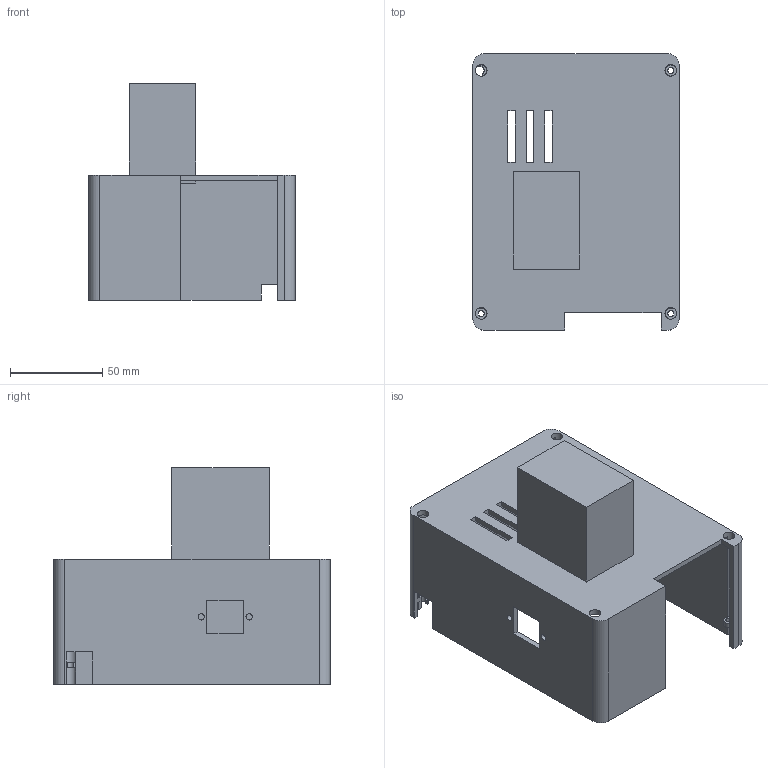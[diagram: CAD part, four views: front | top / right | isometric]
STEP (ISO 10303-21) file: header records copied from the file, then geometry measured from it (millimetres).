
FILE_DESCRIPTION(('Open CASCADE Model'),'2;1');
FILE_NAME('Open CASCADE Shape Model','2026-10-05T13:24:19',('Author'),( 'Open CASCADE'),'Open CASCADE STEP processor 7.8','Open CASCADE 7.8' ,'Unknown');
FILE_SCHEMA(('AUTOMOTIVE_DESIGN { 1 0 10303 214 1 1 1 1 }'));
Length unit declared in the file: millimetre
Products named in the file (1): Open CASCADE STEP translator 7.8 4
Bounding box: 112 x 150 x 117.6 mm (x, y, z)
Volume: 156272.6 mm3; surface area: 109617.3 mm2
Topology: 1 solids, 1 shells, 98 faces, 291 edges, 194 vertices
Faces by surface type: plane 72, cylinder 26
Full cylindrical faces by diameter (mm): 3.4 x2, 6.4 x4
Entity records: 6974 total; most frequent: CARTESIAN_POINT 1582, DIRECTION 869, ORIENTED_EDGE 582, PCURVE 582, DEFINITIONAL_REPRESENTATION 582, LINE 493, VECTOR 493, EDGE_CURVE 291
